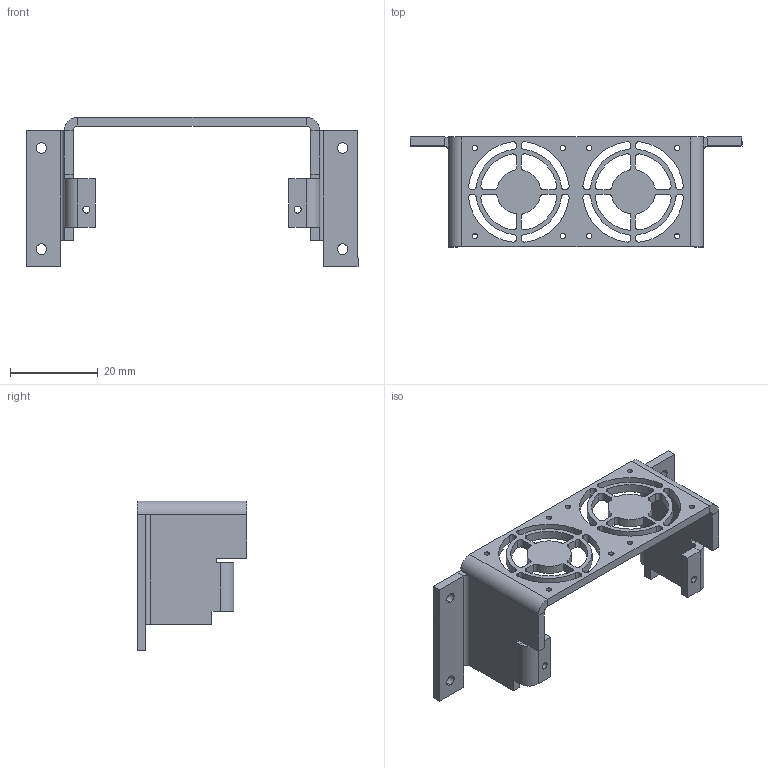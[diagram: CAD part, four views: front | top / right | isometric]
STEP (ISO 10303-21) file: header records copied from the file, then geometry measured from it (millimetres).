
FILE_DESCRIPTION (( 'STEP AP214' ), '1' );
FILE_NAME ('3010-EVM-G2-FAN-MOUNT-SS.STEP', '2017-06-20T20:15:16', ( '' ), ( '' ), 'SwSTEP 2.0', 'SolidWorks 2016', '' );
FILE_SCHEMA (( 'AUTOMOTIVE_DESIGN' ));
Length unit declared in the file: millimetre
Products named in the file (1): 3010-EVM-G2-FAN-MOUNT-SS
Bounding box: 75.48 x 25 x 34 mm (x, y, z)
Volume: 5242.8 mm3; surface area: 7053 mm2
Topology: 1 solids, 1 shells, 231 faces, 641 edges, 412 vertices
Faces by surface type: cylinder 141, plane 90
Entity records: 7605 total; most frequent: DIRECTION 1389, CARTESIAN_POINT 1285, ORIENTED_EDGE 1282, EDGE_CURVE 641, AXIS2_PLACEMENT_3D 516, VERTEX_POINT 412, VECTOR 357, LINE 357
